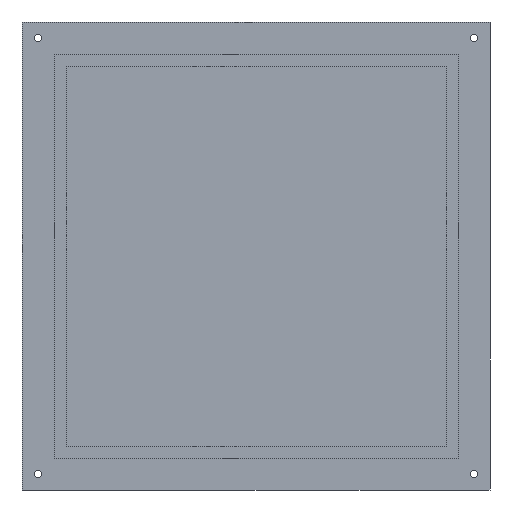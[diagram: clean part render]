
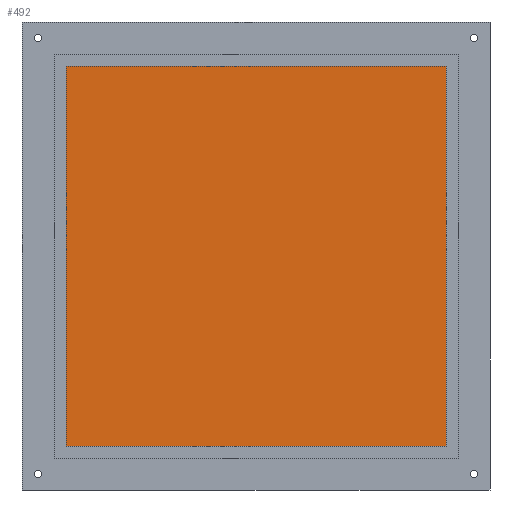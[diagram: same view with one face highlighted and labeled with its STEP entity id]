
A CAD part, front view. The second image highlights one B-rep face of the part: STEP entity #492.
In plain terms, the highlighted planar face has unit normal (0, -1, 0).
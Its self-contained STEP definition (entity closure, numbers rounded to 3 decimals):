
#87=FACE_OUTER_BOUND('',#125,.T.);
#125=EDGE_LOOP('',(#428,#429,#430,#431));
#149=LINE('',#721,#189);
#152=LINE('',#726,#192);
#170=LINE('',#949,#210);
#171=LINE('',#951,#211);
#189=VECTOR('',#584,10.);
#192=VECTOR('',#589,10.);
#210=VECTOR('',#671,10.);
#211=VECTOR('',#674,10.);
#224=VERTEX_POINT('',#718);
#225=VERTEX_POINT('',#720);
#226=VERTEX_POINT('',#724);
#255=VERTEX_POINT('',#947);
#273=EDGE_CURVE('',#224,#225,#149,.T.);
#276=EDGE_CURVE('',#226,#224,#152,.T.);
#317=EDGE_CURVE('',#255,#226,#170,.T.);
#318=EDGE_CURVE('',#225,#255,#171,.T.);
#428=ORIENTED_EDGE('',*,*,#276,.F.);
#429=ORIENTED_EDGE('',*,*,#317,.F.);
#430=ORIENTED_EDGE('',*,*,#318,.F.);
#431=ORIENTED_EDGE('',*,*,#273,.F.);
#465=PLANE('',#549);
#492=ADVANCED_FACE('',(#87),#465,.F.);
#549=AXIS2_PLACEMENT_3D('',#952,#675,#676);
#584=DIRECTION('',(-1.,0.,0.));
#589=DIRECTION('',(0.,0.,-1.));
#671=DIRECTION('',(1.,0.,0.));
#674=DIRECTION('',(0.,0.,1.));
#675=DIRECTION('center_axis',(0.,1.,0.));
#676=DIRECTION('ref_axis',(0.,0.,1.));
#718=CARTESIAN_POINT('',(47.5,146.188,-47.5));
#720=CARTESIAN_POINT('',(-47.5,146.188,-47.5));
#721=CARTESIAN_POINT('',(-47.5,146.188,-47.5));
#724=CARTESIAN_POINT('',(47.5,146.188,47.5));
#726=CARTESIAN_POINT('',(47.5,146.188,-47.5));
#947=CARTESIAN_POINT('',(-47.5,146.188,47.5));
#949=CARTESIAN_POINT('',(47.5,146.188,47.5));
#951=CARTESIAN_POINT('',(-47.5,146.188,47.5));
#952=CARTESIAN_POINT('Origin',(0.,146.188,0.));
